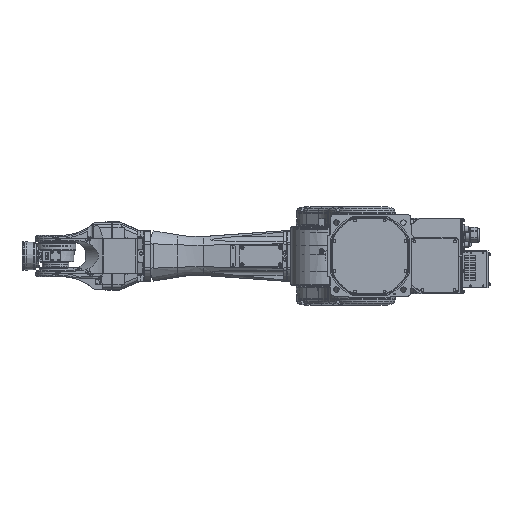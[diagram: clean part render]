
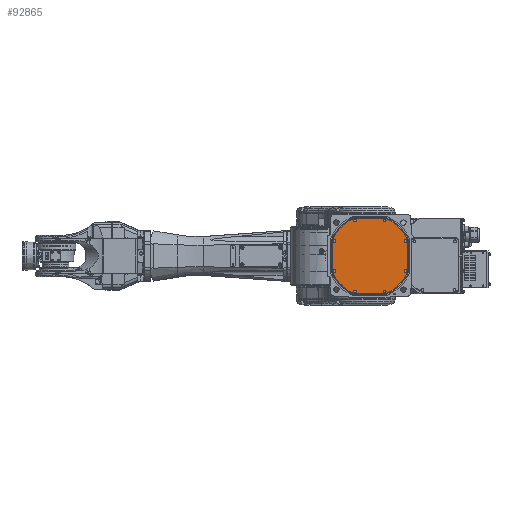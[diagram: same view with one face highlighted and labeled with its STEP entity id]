
A CAD part, front view. The second image highlights one B-rep face of the part: STEP entity #92865.
In plain terms, the highlighted planar face has unit normal (0, -1, 0).
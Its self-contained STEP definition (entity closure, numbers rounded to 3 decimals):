
#4108=LINE('',#127063,#9510);
#4113=LINE('',#127079,#9515);
#4118=LINE('',#127095,#9520);
#4123=LINE('',#127111,#9525);
#9510=VECTOR('',#106461,1000.);
#9515=VECTOR('',#106480,1000.);
#9520=VECTOR('',#106499,1000.);
#9525=VECTOR('',#106518,1000.);
#16380=ORIENTED_EDGE('',*,*,#34301,.F.);
#16381=ORIENTED_EDGE('',*,*,#34302,.F.);
#16382=ORIENTED_EDGE('',*,*,#34303,.F.);
#16383=ORIENTED_EDGE('',*,*,#34304,.F.);
#16384=ORIENTED_EDGE('',*,*,#34305,.F.);
#16385=ORIENTED_EDGE('',*,*,#34306,.F.);
#16386=ORIENTED_EDGE('',*,*,#34307,.F.);
#16387=ORIENTED_EDGE('',*,*,#34308,.F.);
#16388=ORIENTED_EDGE('',*,*,#34270,.F.);
#16389=ORIENTED_EDGE('',*,*,#34300,.F.);
#16390=ORIENTED_EDGE('',*,*,#34298,.F.);
#16391=ORIENTED_EDGE('',*,*,#34296,.F.);
#16392=ORIENTED_EDGE('',*,*,#34294,.F.);
#16393=ORIENTED_EDGE('',*,*,#34292,.F.);
#16394=ORIENTED_EDGE('',*,*,#34290,.F.);
#16395=ORIENTED_EDGE('',*,*,#34288,.F.);
#16396=ORIENTED_EDGE('',*,*,#34286,.F.);
#16397=ORIENTED_EDGE('',*,*,#34284,.F.);
#16398=ORIENTED_EDGE('',*,*,#34282,.F.);
#16399=ORIENTED_EDGE('',*,*,#34280,.F.);
#16400=ORIENTED_EDGE('',*,*,#34278,.F.);
#16401=ORIENTED_EDGE('',*,*,#34276,.F.);
#16402=ORIENTED_EDGE('',*,*,#34274,.F.);
#16403=ORIENTED_EDGE('',*,*,#34272,.F.);
#34270=EDGE_CURVE('',#43375,#43376,#49258,.T.);
#34272=EDGE_CURVE('',#43376,#43377,#4108,.T.);
#34274=EDGE_CURVE('',#43377,#43378,#49259,.T.);
#34276=EDGE_CURVE('',#43378,#43379,#49260,.T.);
#34278=EDGE_CURVE('',#43379,#43380,#49261,.T.);
#34280=EDGE_CURVE('',#43380,#43381,#4113,.T.);
#34282=EDGE_CURVE('',#43381,#43382,#49262,.T.);
#34284=EDGE_CURVE('',#43382,#43383,#49263,.T.);
#34286=EDGE_CURVE('',#43383,#43384,#49264,.T.);
#34288=EDGE_CURVE('',#43384,#43385,#4118,.T.);
#34290=EDGE_CURVE('',#43385,#43386,#49265,.T.);
#34292=EDGE_CURVE('',#43386,#43387,#49266,.T.);
#34294=EDGE_CURVE('',#43387,#43388,#49267,.T.);
#34296=EDGE_CURVE('',#43388,#43389,#4123,.T.);
#34298=EDGE_CURVE('',#43389,#43390,#49268,.T.);
#34300=EDGE_CURVE('',#43390,#43375,#49269,.T.);
#34301=EDGE_CURVE('',#43391,#43391,#49270,.T.);
#34302=EDGE_CURVE('',#43392,#43392,#49271,.T.);
#34303=EDGE_CURVE('',#43393,#43393,#49272,.T.);
#34304=EDGE_CURVE('',#43394,#43394,#49273,.T.);
#34305=EDGE_CURVE('',#43395,#43395,#49274,.T.);
#34306=EDGE_CURVE('',#43396,#43396,#49275,.T.);
#34307=EDGE_CURVE('',#43397,#43397,#49276,.T.);
#34308=EDGE_CURVE('',#43398,#43398,#49277,.T.);
#43375=VERTEX_POINT('',#127058);
#43376=VERTEX_POINT('',#127060);
#43377=VERTEX_POINT('',#127064);
#43378=VERTEX_POINT('',#127068);
#43379=VERTEX_POINT('',#127072);
#43380=VERTEX_POINT('',#127076);
#43381=VERTEX_POINT('',#127080);
#43382=VERTEX_POINT('',#127084);
#43383=VERTEX_POINT('',#127088);
#43384=VERTEX_POINT('',#127092);
#43385=VERTEX_POINT('',#127096);
#43386=VERTEX_POINT('',#127100);
#43387=VERTEX_POINT('',#127104);
#43388=VERTEX_POINT('',#127108);
#43389=VERTEX_POINT('',#127112);
#43390=VERTEX_POINT('',#127116);
#43391=VERTEX_POINT('',#127122);
#43392=VERTEX_POINT('',#127124);
#43393=VERTEX_POINT('',#127126);
#43394=VERTEX_POINT('',#127128);
#43395=VERTEX_POINT('',#127130);
#43396=VERTEX_POINT('',#127132);
#43397=VERTEX_POINT('',#127134);
#43398=VERTEX_POINT('',#127136);
#49258=CIRCLE('',#97422,4.7);
#49259=CIRCLE('',#97425,4.7);
#49260=CIRCLE('',#97427,97.7);
#49261=CIRCLE('',#97429,4.7);
#49262=CIRCLE('',#97432,4.7);
#49263=CIRCLE('',#97434,97.7);
#49264=CIRCLE('',#97436,4.7);
#49265=CIRCLE('',#97439,4.7);
#49266=CIRCLE('',#97441,97.7);
#49267=CIRCLE('',#97443,4.7);
#49268=CIRCLE('',#97446,4.7);
#49269=CIRCLE('',#97448,97.7);
#49270=CIRCLE('',#97450,3.4);
#49271=CIRCLE('',#97451,3.4);
#49272=CIRCLE('',#97452,3.4);
#49273=CIRCLE('',#97453,3.4);
#49274=CIRCLE('',#97454,3.4);
#49275=CIRCLE('',#97455,3.4);
#49276=CIRCLE('',#97456,3.4);
#49277=CIRCLE('',#97457,3.4);
#52165=EDGE_LOOP('',(#16380));
#52166=EDGE_LOOP('',(#16381));
#52167=EDGE_LOOP('',(#16382));
#52168=EDGE_LOOP('',(#16383));
#52169=EDGE_LOOP('',(#16384));
#52170=EDGE_LOOP('',(#16385));
#52171=EDGE_LOOP('',(#16386));
#52172=EDGE_LOOP('',(#16387));
#52173=EDGE_LOOP('',(#16388,#16389,#16390,#16391,#16392,#16393,#16394,#16395,
#16396,#16397,#16398,#16399,#16400,#16401,#16402,#16403));
#57433=FACE_BOUND('',#52165,.T.);
#57434=FACE_BOUND('',#52166,.T.);
#57435=FACE_BOUND('',#52167,.T.);
#57436=FACE_BOUND('',#52168,.T.);
#57437=FACE_BOUND('',#52169,.T.);
#57438=FACE_BOUND('',#52170,.T.);
#57439=FACE_BOUND('',#52171,.T.);
#57440=FACE_BOUND('',#52172,.T.);
#57441=FACE_BOUND('',#52173,.T.);
#62398=PLANE('',#97449);
#92865=ADVANCED_FACE('',(#57433,#57434,#57435,#57436,#57437,#57438,#57439,
#57440,#57441),#62398,.F.);
#97422=AXIS2_PLACEMENT_3D('',#127059,#106456,#106457);
#97425=AXIS2_PLACEMENT_3D('',#127067,#106465,#106466);
#97427=AXIS2_PLACEMENT_3D('',#127071,#106470,#106471);
#97429=AXIS2_PLACEMENT_3D('',#127075,#106475,#106476);
#97432=AXIS2_PLACEMENT_3D('',#127083,#106484,#106485);
#97434=AXIS2_PLACEMENT_3D('',#127087,#106489,#106490);
#97436=AXIS2_PLACEMENT_3D('',#127091,#106494,#106495);
#97439=AXIS2_PLACEMENT_3D('',#127099,#106503,#106504);
#97441=AXIS2_PLACEMENT_3D('',#127103,#106508,#106509);
#97443=AXIS2_PLACEMENT_3D('',#127107,#106513,#106514);
#97446=AXIS2_PLACEMENT_3D('',#127115,#106522,#106523);
#97448=AXIS2_PLACEMENT_3D('',#127119,#106527,#106528);
#97449=AXIS2_PLACEMENT_3D('',#127120,#106529,#106530);
#97450=AXIS2_PLACEMENT_3D('',#127121,#106531,#106532);
#97451=AXIS2_PLACEMENT_3D('',#127123,#106533,#106534);
#97452=AXIS2_PLACEMENT_3D('',#127125,#106535,#106536);
#97453=AXIS2_PLACEMENT_3D('',#127127,#106537,#106538);
#97454=AXIS2_PLACEMENT_3D('',#127129,#106539,#106540);
#97455=AXIS2_PLACEMENT_3D('',#127131,#106541,#106542);
#97456=AXIS2_PLACEMENT_3D('',#127133,#106543,#106544);
#97457=AXIS2_PLACEMENT_3D('',#127135,#106545,#106546);
#106456=DIRECTION('',(0.,1.,0.));
#106457=DIRECTION('',(0.,0.,1.));
#106461=DIRECTION('',(0.,0.,1.));
#106465=DIRECTION('',(0.,1.,0.));
#106466=DIRECTION('',(0.,0.,1.));
#106470=DIRECTION('',(0.,1.,0.));
#106471=DIRECTION('',(0.,0.,1.));
#106475=DIRECTION('',(0.,1.,0.));
#106476=DIRECTION('',(0.,0.,1.));
#106480=DIRECTION('',(1.,0.,0.));
#106484=DIRECTION('',(0.,1.,0.));
#106485=DIRECTION('',(0.,0.,1.));
#106489=DIRECTION('',(0.,1.,0.));
#106490=DIRECTION('',(0.,0.,1.));
#106494=DIRECTION('',(0.,1.,0.));
#106495=DIRECTION('',(0.,0.,1.));
#106499=DIRECTION('',(0.,0.,-1.));
#106503=DIRECTION('',(0.,1.,0.));
#106504=DIRECTION('',(0.,0.,1.));
#106508=DIRECTION('',(0.,1.,0.));
#106509=DIRECTION('',(0.,0.,1.));
#106513=DIRECTION('',(0.,1.,0.));
#106514=DIRECTION('',(0.,0.,1.));
#106518=DIRECTION('',(-1.,0.,0.));
#106522=DIRECTION('',(0.,1.,0.));
#106523=DIRECTION('',(0.,0.,1.));
#106527=DIRECTION('',(0.,1.,0.));
#106528=DIRECTION('',(0.,0.,1.));
#106529=DIRECTION('',(0.,1.,0.));
#106530=DIRECTION('',(0.,0.,1.));
#106531=DIRECTION('',(0.,-1.,0.));
#106532=DIRECTION('',(0.,0.,-1.));
#106533=DIRECTION('',(0.,-1.,0.));
#106534=DIRECTION('',(0.,0.,-1.));
#106535=DIRECTION('',(0.,-1.,0.));
#106536=DIRECTION('',(0.,0.,-1.));
#106537=DIRECTION('',(0.,-1.,0.));
#106538=DIRECTION('',(0.,0.,-1.));
#106539=DIRECTION('',(0.,-1.,0.));
#106540=DIRECTION('',(0.,0.,-1.));
#106541=DIRECTION('',(0.,-1.,0.));
#106542=DIRECTION('',(0.,0.,-1.));
#106543=DIRECTION('',(0.,-1.,0.));
#106544=DIRECTION('',(0.,0.,-1.));
#106545=DIRECTION('',(0.,-1.,0.));
#106546=DIRECTION('',(0.,0.,-1.));
#127058=CARTESIAN_POINT('',(-89.296,5.,-39.643));
#127059=CARTESIAN_POINT('',(-85.,5.,-37.736));
#127060=CARTESIAN_POINT('',(-89.7,5.,-37.736));
#127063=CARTESIAN_POINT('',(-89.7,5.,-37.736));
#127064=CARTESIAN_POINT('',(-89.7,5.,37.736));
#127067=CARTESIAN_POINT('',(-85.,5.,37.736));
#127068=CARTESIAN_POINT('',(-89.296,5.,39.643));
#127071=CARTESIAN_POINT('',(0.,5.,0.));
#127072=CARTESIAN_POINT('',(-39.643,5.,89.296));
#127075=CARTESIAN_POINT('',(-37.736,5.,85.));
#127076=CARTESIAN_POINT('',(-37.736,5.,89.7));
#127079=CARTESIAN_POINT('',(-85.,5.,89.7));
#127080=CARTESIAN_POINT('',(37.736,5.,89.7));
#127083=CARTESIAN_POINT('',(37.736,5.,85.));
#127084=CARTESIAN_POINT('',(39.643,5.,89.296));
#127087=CARTESIAN_POINT('',(0.,5.,0.));
#127088=CARTESIAN_POINT('',(89.296,5.,39.643));
#127091=CARTESIAN_POINT('',(85.,5.,37.736));
#127092=CARTESIAN_POINT('',(89.7,5.,37.736));
#127095=CARTESIAN_POINT('',(89.7,5.,-37.736));
#127096=CARTESIAN_POINT('',(89.7,5.,-37.736));
#127099=CARTESIAN_POINT('',(85.,5.,-37.736));
#127100=CARTESIAN_POINT('',(89.296,5.,-39.643));
#127103=CARTESIAN_POINT('',(0.,5.,0.));
#127104=CARTESIAN_POINT('',(39.643,5.,-89.296));
#127107=CARTESIAN_POINT('',(37.736,5.,-85.));
#127108=CARTESIAN_POINT('',(37.736,5.,-89.7));
#127111=CARTESIAN_POINT('',(-85.,5.,-89.7));
#127112=CARTESIAN_POINT('',(-37.736,5.,-89.7));
#127115=CARTESIAN_POINT('',(-37.736,5.,-85.));
#127116=CARTESIAN_POINT('',(-39.643,5.,-89.296));
#127119=CARTESIAN_POINT('',(0.,5.,0.));
#127120=CARTESIAN_POINT('',(-85.,5.,-37.736));
#127121=CARTESIAN_POINT('',(35.207,5.,-84.997));
#127122=CARTESIAN_POINT('',(35.207,5.,-88.397));
#127123=CARTESIAN_POINT('',(84.997,5.,-35.207));
#127124=CARTESIAN_POINT('',(84.997,5.,-38.607));
#127125=CARTESIAN_POINT('',(84.997,5.,35.207));
#127126=CARTESIAN_POINT('',(84.997,5.,31.807));
#127127=CARTESIAN_POINT('',(35.207,5.,84.997));
#127128=CARTESIAN_POINT('',(35.207,5.,81.597));
#127129=CARTESIAN_POINT('',(-35.207,5.,84.997));
#127130=CARTESIAN_POINT('',(-35.207,5.,81.597));
#127131=CARTESIAN_POINT('',(-84.997,5.,35.207));
#127132=CARTESIAN_POINT('',(-84.997,5.,31.807));
#127133=CARTESIAN_POINT('',(-84.997,5.,-35.207));
#127134=CARTESIAN_POINT('',(-84.997,5.,-38.607));
#127135=CARTESIAN_POINT('',(-35.207,5.,-84.997));
#127136=CARTESIAN_POINT('',(-35.207,5.,-88.397));
